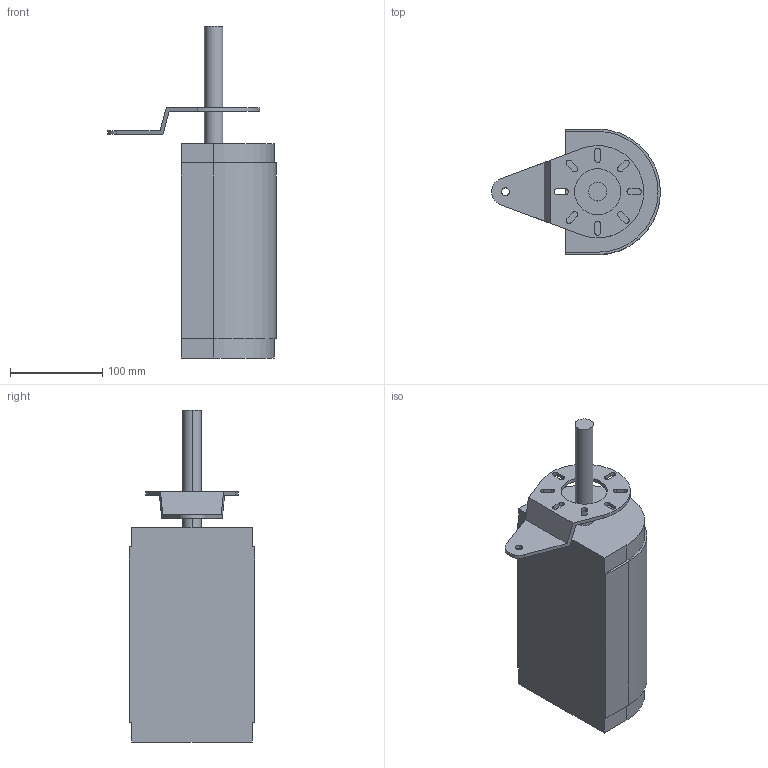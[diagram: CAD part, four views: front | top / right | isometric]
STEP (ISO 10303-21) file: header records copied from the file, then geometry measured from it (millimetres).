
FILE_DESCRIPTION (( 'STEP AP214' ), '1' );
FILE_NAME ('FS-MTC-150 230 rechts ra.STEP', '2017-12-21T09:26:40', ( '' ), ( '' ), 'SwSTEP 2.0', 'SolidWorks 2017', '' );
FILE_SCHEMA (( 'AUTOMOTIVE_DESIGN' ));
Length unit declared in the file: millimetre
Products named in the file (1): FS-MTC-150 230 rechts ra
Bounding box: 183 x 136 x 360 mm (x, y, z)
Volume: 2845037.6 mm3; surface area: 152325.8 mm2
Topology: 2 solids, 2 shells, 70 faces, 195 edges, 130 vertices
Faces by surface type: plane 36, cylinder 34
Entity records: 2350 total; most frequent: DIRECTION 405, CARTESIAN_POINT 396, ORIENTED_EDGE 390, EDGE_CURVE 195, AXIS2_PLACEMENT_3D 139, VERTEX_POINT 130, LINE 127, VECTOR 127
